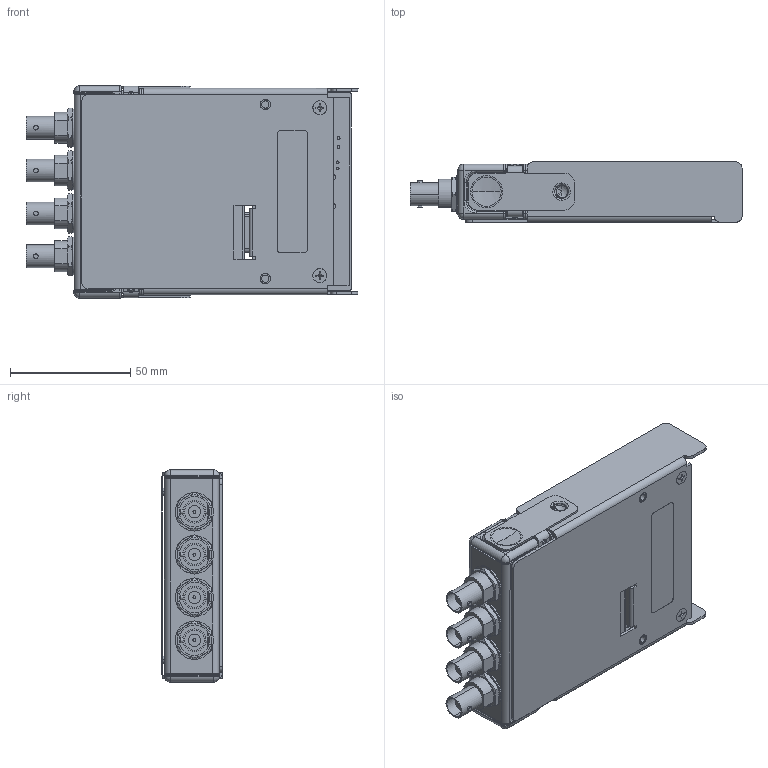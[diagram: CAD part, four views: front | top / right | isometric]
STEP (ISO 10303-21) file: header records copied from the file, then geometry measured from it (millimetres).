
FILE_DESCRIPTION((''),'2;1');
FILE_NAME('CU_USB_CARRIER_BNC','2007-11-06T',('tvenable'),(''),'PRO/ENGINEER BY PARAMETRIC TECHNOLOGY CORPORATION, 2006080','PRO/ENGINEER BY PARAMETRIC TECHNOLOGY CORPORATION, 2006080','');
FILE_SCHEMA(('CONFIG_CONTROL_DESIGN'));
Products named in the file (1): CU_USB_CARRIER_BNC
Bounding box: 137.77 x 25.5 x 88.12 mm (x, y, z)
Volume: 82775.5 mm3; surface area: 87433.2 mm2
Topology: 17 solids, 17 shells, 2041 faces, 5057 edges, 3018 vertices
Faces by surface type: plane 842, cylinder 622, bspline 423, torus 59, cone 50, sphere 39, extrusion 6
Entity records: 84191 total; most frequent: CARTESIAN_POINT 39202, ORIENTED_EDGE 9890, DIRECTION 8322, EDGE_CURVE 4945, VERTEX_POINT 3094, AXIS2_PLACEMENT_3D 2852, VECTOR 2618, LINE 2612
